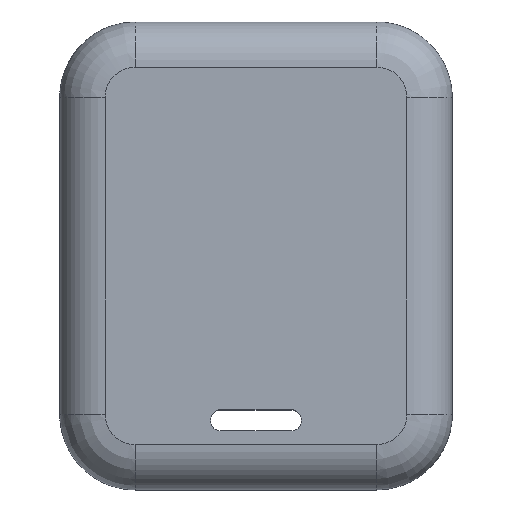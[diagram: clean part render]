
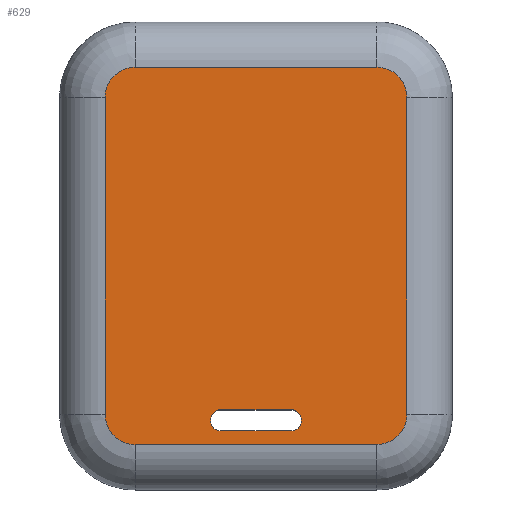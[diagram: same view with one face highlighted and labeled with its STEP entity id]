
A CAD part, top view. The second image highlights one B-rep face of the part: STEP entity #629.
In plain terms, the highlighted planar face has unit normal (0, 0, 1).
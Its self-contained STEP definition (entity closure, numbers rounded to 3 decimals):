
#11=DIRECTION('',(0.0,0.0,1.0));
#12=DIRECTION('',(1.0,0.0,0.0));
#20=DIRECTION('',(-1.0,0.0,0.0));
#24=VECTOR('',#12,4.7);
#156=VECTOR('',#20,16.0);
#170=CARTESIAN_POINT('',(10.0,4.55,7.0));
#171=VERTEX_POINT('',#170);
#174=CARTESIAN_POINT('',(10.0,4.55,7.0));
#175=CARTESIAN_POINT('',(10.0,4.426,7.0));
#176=CARTESIAN_POINT('',(10.095,4.186,7.0));
#177=CARTESIAN_POINT('',(10.286,3.995,7.0));
#178=CARTESIAN_POINT('',(10.526,3.9,7.0));
#179=CARTESIAN_POINT('',(10.65,3.9,7.0));
#180=(BOUNDED_CURVE()B_SPLINE_CURVE(2,(#179,#178,#177,#176,#175,#174),.UNSPECIFIED.,.U.,.U.)B_SPLINE_CURVE_WITH_KNOTS((3,1,1,1,3),(0.0,0.25,0.5,0.75,1.0),.UNSPECIFIED.)CURVE()GEOMETRIC_REPRESENTATION_ITEM()RATIONAL_B_SPLINE_CURVE((1.0,0.927,0.854,0.854,0.927,1.0))REPRESENTATION_ITEM(''));
#181=VERTEX_POINT('',#179);
#182=EDGE_CURVE('',#181,#171,#180,.T.);
#190=DIRECTION('',(0.0,-1.0,0.0));
#198=CARTESIAN_POINT('',(10.,4.65,7.0));
#199=VERTEX_POINT('',#198);
#202=DIRECTION('',(0.,1.0,0.0));
#203=VECTOR('',#202,0.1);
#204=LINE('',#170,#203);
#205=EDGE_CURVE('',#171,#199,#204,.T.);
#218=CARTESIAN_POINT('',(10.65,5.3,7.0));
#219=VERTEX_POINT('',#218);
#222=CARTESIAN_POINT('',(10.526,5.3,7.0));
#223=CARTESIAN_POINT('',(10.286,5.205,7.));
#224=CARTESIAN_POINT('',(10.095,5.014,7.));
#225=CARTESIAN_POINT('',(10.,4.774,7.0));
#226=(BOUNDED_CURVE()B_SPLINE_CURVE(2,(#198,#225,#224,#223,#222,#218),.UNSPECIFIED.,.U.,.U.)B_SPLINE_CURVE_WITH_KNOTS((3,1,1,1,3),(0.0,0.25,0.5,0.75,1.0),.UNSPECIFIED.)CURVE()GEOMETRIC_REPRESENTATION_ITEM()RATIONAL_B_SPLINE_CURVE((1.0,0.927,0.854,0.854,0.927,1.0))REPRESENTATION_ITEM(''));
#227=EDGE_CURVE('',#199,#219,#226,.T.);
#239=CARTESIAN_POINT('',(15.35,5.3,7.0));
#240=VERTEX_POINT('',#239);
#243=DIRECTION('',(-1.0,0.,0.0));
#244=VECTOR('',#243,4.7);
#245=LINE('',#239,#244);
#246=EDGE_CURVE('',#240,#219,#245,.T.);
#259=CARTESIAN_POINT('',(16.0,4.65,7.0));
#260=VERTEX_POINT('',#259);
#263=CARTESIAN_POINT('',(15.474,5.3,7.0));
#264=CARTESIAN_POINT('',(15.714,5.205,7.0));
#265=CARTESIAN_POINT('',(15.905,5.014,7.0));
#266=CARTESIAN_POINT('',(16.0,4.774,7.0));
#267=(BOUNDED_CURVE()B_SPLINE_CURVE(2,(#259,#266,#265,#264,#263,#239),.UNSPECIFIED.,.U.,.U.)B_SPLINE_CURVE_WITH_KNOTS((3,1,1,1,3),(0.0,0.25,0.5,0.75,1.0),.UNSPECIFIED.)CURVE()GEOMETRIC_REPRESENTATION_ITEM()RATIONAL_B_SPLINE_CURVE((1.0,0.927,0.854,0.854,0.927,1.0))REPRESENTATION_ITEM(''));
#268=EDGE_CURVE('',#260,#240,#267,.T.);
#274=DIRECTION('',(0.0,1.0,0.0));
#282=CARTESIAN_POINT('',(16.0,4.55,7.));
#283=VERTEX_POINT('',#282);
#286=DIRECTION('',(0.0,1.0,0.));
#287=VECTOR('',#286,0.1);
#288=LINE('',#282,#287);
#289=EDGE_CURVE('',#283,#260,#288,.T.);
#301=CARTESIAN_POINT('',(15.35,3.9,7.0));
#302=VERTEX_POINT('',#301);
#305=CARTESIAN_POINT('',(16.,4.55,7.));
#306=CARTESIAN_POINT('',(16.,4.426,7.));
#307=CARTESIAN_POINT('',(15.905,4.186,7.0));
#308=CARTESIAN_POINT('',(15.714,3.995,7.));
#309=CARTESIAN_POINT('',(15.474,3.9,7.0));
#310=(BOUNDED_CURVE()B_SPLINE_CURVE(2,(#301,#309,#308,#307,#306,#305),.UNSPECIFIED.,.U.,.U.)B_SPLINE_CURVE_WITH_KNOTS((3,1,1,1,3),(0.0,0.25,0.5,0.75,1.0),.UNSPECIFIED.)CURVE()GEOMETRIC_REPRESENTATION_ITEM()RATIONAL_B_SPLINE_CURVE((1.0,0.927,0.854,0.854,0.927,1.0))REPRESENTATION_ITEM(''));
#311=EDGE_CURVE('',#302,#283,#310,.T.);
#322=LINE('',#179,#24);
#323=EDGE_CURVE('',#181,#302,#322,.T.);
#345=CARTESIAN_POINT('',(5.0,3.,7.0));
#349=VERTEX_POINT('',#345);
#367=CARTESIAN_POINT('',(3.,5.,7.0));
#369=VERTEX_POINT('',#367);
#372=CARTESIAN_POINT('',(5.,3.,7.0));
#373=CARTESIAN_POINT('',(4.619,3.,7.0));
#374=CARTESIAN_POINT('',(3.879,3.293,7.0));
#375=CARTESIAN_POINT('',(3.293,3.879,7.));
#376=CARTESIAN_POINT('',(3.,4.619,7.0));
#377=(BOUNDED_CURVE()B_SPLINE_CURVE(2,(#367,#376,#375,#374,#373,#372),.UNSPECIFIED.,.U.,.U.)B_SPLINE_CURVE_WITH_KNOTS((3,1,1,1,3),(0.0,0.25,0.5,0.75,1.0),.UNSPECIFIED.)CURVE()GEOMETRIC_REPRESENTATION_ITEM()RATIONAL_B_SPLINE_CURVE((1.0,0.927,0.854,0.854,0.927,1.0))REPRESENTATION_ITEM(''));
#378=EDGE_CURVE('',#369,#349,#377,.T.);
#388=VECTOR('',#190,21.0);
#399=CARTESIAN_POINT('',(3.,26.0,7.0));
#401=VERTEX_POINT('',#399);
#404=LINE('',#399,#388);
#405=EDGE_CURVE('',#401,#369,#404,.T.);
#436=CARTESIAN_POINT('',(5.0,28.0,7.0));
#438=VERTEX_POINT('',#436);
#441=CARTESIAN_POINT('',(3.,26.0,7.0));
#442=CARTESIAN_POINT('',(3.,26.381,7.0));
#443=CARTESIAN_POINT('',(3.293,27.121,7.0));
#444=CARTESIAN_POINT('',(3.879,27.707,7.0));
#445=CARTESIAN_POINT('',(4.619,28.0,7.0));
#446=(BOUNDED_CURVE()B_SPLINE_CURVE(2,(#436,#445,#444,#443,#442,#441),.UNSPECIFIED.,.U.,.U.)B_SPLINE_CURVE_WITH_KNOTS((3,1,1,1,3),(0.0,0.25,0.5,0.75,1.0),.UNSPECIFIED.)CURVE()GEOMETRIC_REPRESENTATION_ITEM()RATIONAL_B_SPLINE_CURVE((1.0,0.927,0.854,0.854,0.927,1.0))REPRESENTATION_ITEM(''));
#447=EDGE_CURVE('',#438,#401,#446,.T.);
#469=CARTESIAN_POINT('',(21.0,28.0,7.0));
#471=VERTEX_POINT('',#469);
#474=LINE('',#469,#156);
#475=EDGE_CURVE('',#471,#438,#474,.T.);
#506=CARTESIAN_POINT('',(23.0,26.0,7.0));
#508=VERTEX_POINT('',#506);
#511=CARTESIAN_POINT('',(21.381,28.0,7.0));
#512=CARTESIAN_POINT('',(22.121,27.707,7.));
#513=CARTESIAN_POINT('',(22.707,27.121,7.));
#514=CARTESIAN_POINT('',(23.0,26.381,7.0));
#515=(BOUNDED_CURVE()B_SPLINE_CURVE(2,(#506,#514,#513,#512,#511,#469),.UNSPECIFIED.,.U.,.U.)B_SPLINE_CURVE_WITH_KNOTS((3,1,1,1,3),(0.0,0.25,0.5,0.75,1.0),.UNSPECIFIED.)CURVE()GEOMETRIC_REPRESENTATION_ITEM()RATIONAL_B_SPLINE_CURVE((1.0,0.927,0.854,0.854,0.927,1.0))REPRESENTATION_ITEM(''));
#516=EDGE_CURVE('',#508,#471,#515,.T.);
#526=VECTOR('',#274,21.0);
#537=CARTESIAN_POINT('',(23.0,5.,7.0));
#539=VERTEX_POINT('',#537);
#542=LINE('',#537,#526);
#543=EDGE_CURVE('',#539,#508,#542,.T.);
#574=CARTESIAN_POINT('',(21.0,3.,7.0));
#576=VERTEX_POINT('',#574);
#579=CARTESIAN_POINT('',(23.0,5.,7.0));
#580=CARTESIAN_POINT('',(23.0,4.619,7.0));
#581=CARTESIAN_POINT('',(22.707,3.879,7.0));
#582=CARTESIAN_POINT('',(22.121,3.293,7.0));
#583=CARTESIAN_POINT('',(21.381,3.,7.0));
#584=(BOUNDED_CURVE()B_SPLINE_CURVE(2,(#574,#583,#582,#581,#580,#579),.UNSPECIFIED.,.U.,.U.)B_SPLINE_CURVE_WITH_KNOTS((3,1,1,1,3),(0.0,0.25,0.5,0.75,1.0),.UNSPECIFIED.)CURVE()GEOMETRIC_REPRESENTATION_ITEM()RATIONAL_B_SPLINE_CURVE((1.0,0.927,0.854,0.854,0.927,1.0))REPRESENTATION_ITEM(''));
#585=EDGE_CURVE('',#576,#539,#584,.T.);
#595=VECTOR('',#12,16.0);
#600=LINE('',#345,#595);
#601=EDGE_CURVE('',#349,#576,#600,.T.);
#606=CARTESIAN_POINT('',(26.,31.,7.0));
#607=AXIS2_PLACEMENT_3D('',#606,#11,#20);
#608=PLANE('',#607);
#609=ORIENTED_EDGE('',*,*,#323,.F.);
#610=ORIENTED_EDGE('',*,*,#311,.F.);
#611=ORIENTED_EDGE('',*,*,#289,.F.);
#612=ORIENTED_EDGE('',*,*,#268,.F.);
#613=ORIENTED_EDGE('',*,*,#246,.F.);
#614=ORIENTED_EDGE('',*,*,#227,.T.);
#615=ORIENTED_EDGE('',*,*,#205,.T.);
#616=ORIENTED_EDGE('',*,*,#182,.T.);
#617=EDGE_LOOP('',(#616,#615,#614,#613,#612,#611,#610,#609));
#618=FACE_BOUND('',#617,.T.);
#619=ORIENTED_EDGE('',*,*,#378,.T.);
#620=ORIENTED_EDGE('',*,*,#405,.T.);
#621=ORIENTED_EDGE('',*,*,#447,.T.);
#622=ORIENTED_EDGE('',*,*,#475,.T.);
#623=ORIENTED_EDGE('',*,*,#516,.T.);
#624=ORIENTED_EDGE('',*,*,#543,.T.);
#625=ORIENTED_EDGE('',*,*,#585,.T.);
#626=ORIENTED_EDGE('',*,*,#601,.T.);
#627=EDGE_LOOP('',(#626,#625,#624,#623,#622,#621,#620,#619));
#628=FACE_BOUND('',#627,.T.);
#629=ADVANCED_FACE('',(#628,#618),#608,.T.);
